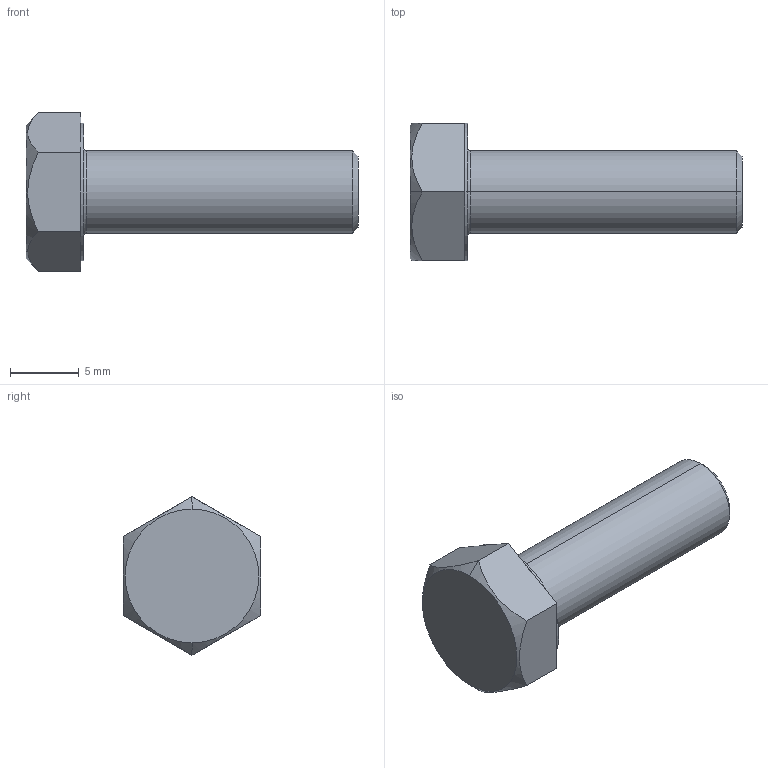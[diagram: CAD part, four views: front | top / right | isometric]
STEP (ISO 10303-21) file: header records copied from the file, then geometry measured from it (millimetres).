
FILE_DESCRIPTION (( 'STEP AP203' ), '1' );
FILE_NAME ('LGN-TD-M6x20.STEP', '2026-08-14T03:51:09', ( '' ), ( '' ), 'SwSTEP 2.0', 'SolidWorks 2020', '' );
FILE_SCHEMA (( 'CONFIG_CONTROL_DESIGN' ));
Length unit declared in the file: millimetre
Products named in the file (1): LGN-TD-M6x20
Bounding box: 24.2 x 10 x 11.55 mm (x, y, z)
Volume: 923.2 mm3; surface area: 680.2 mm2
Topology: 1 solids, 1 shells, 25 faces, 54 edges, 32 vertices
Faces by surface type: plane 15, cone 4, cylinder 4, torus 2
Entity records: 809 total; most frequent: CARTESIAN_POINT 182, DIRECTION 122, ORIENTED_EDGE 108, EDGE_CURVE 54, AXIS2_PLACEMENT_3D 48, VERTEX_POINT 32, VECTOR 26, LINE 26
